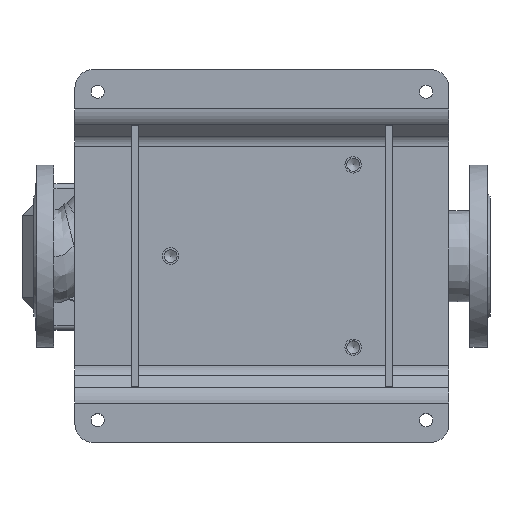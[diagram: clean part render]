
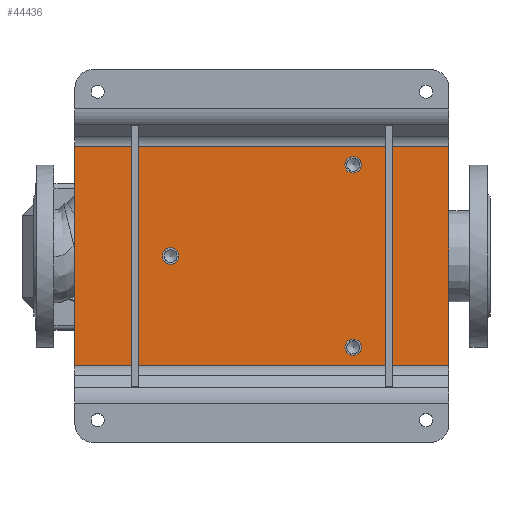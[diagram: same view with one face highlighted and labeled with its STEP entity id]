
A CAD part, top view. The second image highlights one B-rep face of the part: STEP entity #44436.
In plain terms, the highlighted planar face has unit normal (0, 0, 1) as drawn and (0, -1, 0) by its records, which use the part's own axes.
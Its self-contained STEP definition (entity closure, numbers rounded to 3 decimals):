
#1297 = LINE ( 'NONE', #17955, #17532 ) ;
#1425 = EDGE_LOOP ( 'NONE', ( #58521 ) ) ;
#1730 = VERTEX_POINT ( 'NONE', #29482 ) ;
#1943 = DIRECTION ( 'NONE',  ( 0., 0., -1. ) ) ;
#3836 = CARTESIAN_POINT ( 'NONE',  ( -120., -8., 205. ) ) ;
#4319 = DIRECTION ( 'NONE',  ( 0., -1., 0. ) ) ;
#4805 = PLANE ( 'NONE',  #11135 ) ;
#5134 = VERTEX_POINT ( 'NONE', #64621 ) ;
#5702 = VERTEX_POINT ( 'NONE', #34233 ) ;
#5720 = EDGE_CURVE ( 'NONE', #1730, #1730, #20171, .T. ) ;
#6828 = EDGE_LOOP ( 'NONE', ( #18899 ) ) ;
#10346 = ORIENTED_EDGE ( 'NONE', *, *, #18109, .F. ) ;
#10375 = FACE_OUTER_BOUND ( 'NONE', #31502, .T. ) ;
#10810 = VECTOR ( 'NONE', #59036, 1000. ) ;
#11017 = VERTEX_POINT ( 'NONE', #69793 ) ;
#11135 = AXIS2_PLACEMENT_3D ( 'NONE', #26305, #60374, #27396 ) ;
#14001 = DIRECTION ( 'NONE',  ( 0., 0., -1. ) ) ;
#14528 = CARTESIAN_POINT ( 'NONE',  ( -120., -8., 205. ) ) ;
#16635 = AXIS2_PLACEMENT_3D ( 'NONE', #18592, #52655, #1943 ) ;
#17297 = EDGE_LOOP ( 'NONE', ( #67122 ) ) ;
#17518 = CIRCLE ( 'NONE', #55366, 9. ) ;
#17532 = VECTOR ( 'NONE', #69067, 1000. ) ;
#17955 = CARTESIAN_POINT ( 'NONE',  ( -120., -8., -205. ) ) ;
#18109 = EDGE_CURVE ( 'NONE', #44072, #71661, #1297, .T. ) ;
#18592 = CARTESIAN_POINT ( 'NONE',  ( 0., -8., -100. ) ) ;
#18899 = ORIENTED_EDGE ( 'NONE', *, *, #5720, .F. ) ;
#20171 = CIRCLE ( 'NONE', #16635, 9. ) ;
#20504 = LINE ( 'NONE', #3836, #10810 ) ;
#20649 = EDGE_CURVE ( 'NONE', #26497, #26497, #17518, .T. ) ;
#24513 = AXIS2_PLACEMENT_3D ( 'NONE', #65092, #4319, #14001 ) ;
#26305 = CARTESIAN_POINT ( 'NONE',  ( 0., -8., 0. ) ) ;
#26497 = VERTEX_POINT ( 'NONE', #32417 ) ;
#27185 = DIRECTION ( 'NONE',  ( 0., 0., -1. ) ) ;
#27396 = DIRECTION ( 'NONE',  ( 0., 0., -1. ) ) ;
#29482 = CARTESIAN_POINT ( 'NONE',  ( 0., -8., -109. ) ) ;
#30567 = EDGE_CURVE ( 'NONE', #5134, #44072, #37332, .T. ) ;
#31502 = EDGE_LOOP ( 'NONE', ( #58378, #54914, #69599, #10346 ) ) ;
#31849 = FACE_BOUND ( 'NONE', #6828, .T. ) ;
#32417 = CARTESIAN_POINT ( 'NONE',  ( -100., -8., 91. ) ) ;
#34233 = CARTESIAN_POINT ( 'NONE',  ( 100., -8., 91. ) ) ;
#34685 = EDGE_CURVE ( 'NONE', #5702, #5702, #71822, .T. ) ;
#37332 = LINE ( 'NONE', #44321, #67036 ) ;
#37759 = CARTESIAN_POINT ( 'NONE',  ( 120., -8., -205. ) ) ;
#39372 = DIRECTION ( 'NONE',  ( 0., -1., 0. ) ) ;
#43675 = FACE_BOUND ( 'NONE', #17297, .T. ) ;
#44072 = VERTEX_POINT ( 'NONE', #37759 ) ;
#44321 = CARTESIAN_POINT ( 'NONE',  ( 120., -8., 205. ) ) ;
#44436 = ADVANCED_FACE ( 'NONE', ( #43675, #31849, #54442, #10375 ), #4805, .T. ) ;
#50123 = CARTESIAN_POINT ( 'NONE',  ( -100., -8., 100. ) ) ;
#51207 = EDGE_CURVE ( 'NONE', #11017, #5134, #71893, .T. ) ;
#52655 = DIRECTION ( 'NONE',  ( 0., -1., 0. ) ) ;
#54442 = FACE_BOUND ( 'NONE', #1425, .T. ) ;
#54914 = ORIENTED_EDGE ( 'NONE', *, *, #51207, .F. ) ;
#55050 = EDGE_CURVE ( 'NONE', #71661, #11017, #20504, .T. ) ;
#55366 = AXIS2_PLACEMENT_3D ( 'NONE', #50123, #39372, #27185 ) ;
#58378 = ORIENTED_EDGE ( 'NONE', *, *, #30567, .F. ) ;
#58521 = ORIENTED_EDGE ( 'NONE', *, *, #20649, .F. ) ;
#58636 = CARTESIAN_POINT ( 'NONE',  ( -120., -8., -205. ) ) ;
#59036 = DIRECTION ( 'NONE',  ( 0., 0., 1. ) ) ;
#59685 = DIRECTION ( 'NONE',  ( 1., 0., 0. ) ) ;
#60374 = DIRECTION ( 'NONE',  ( 0., -1., 0. ) ) ;
#64621 = CARTESIAN_POINT ( 'NONE',  ( 120., -8., 205. ) ) ;
#65092 = CARTESIAN_POINT ( 'NONE',  ( 100., -8., 100. ) ) ;
#65403 = VECTOR ( 'NONE', #59685, 1000. ) ;
#66588 = DIRECTION ( 'NONE',  ( 0., 0., -1. ) ) ;
#67036 = VECTOR ( 'NONE', #66588, 1000. ) ;
#67122 = ORIENTED_EDGE ( 'NONE', *, *, #34685, .F. ) ;
#69067 = DIRECTION ( 'NONE',  ( -1., 0., 0. ) ) ;
#69599 = ORIENTED_EDGE ( 'NONE', *, *, #55050, .F. ) ;
#69793 = CARTESIAN_POINT ( 'NONE',  ( -120., -8., 205. ) ) ;
#71661 = VERTEX_POINT ( 'NONE', #58636 ) ;
#71822 = CIRCLE ( 'NONE', #24513, 9. ) ;
#71893 = LINE ( 'NONE', #14528, #65403 ) ;
